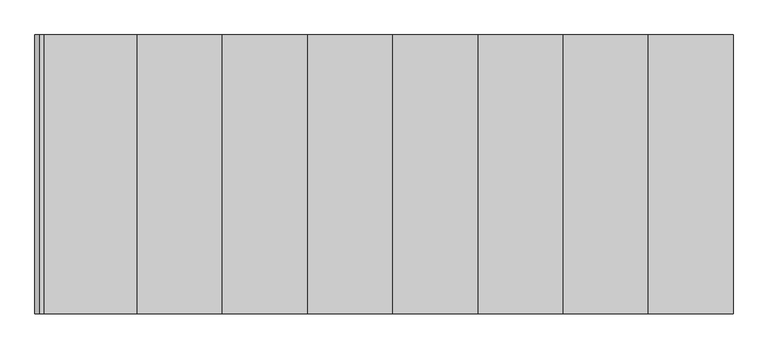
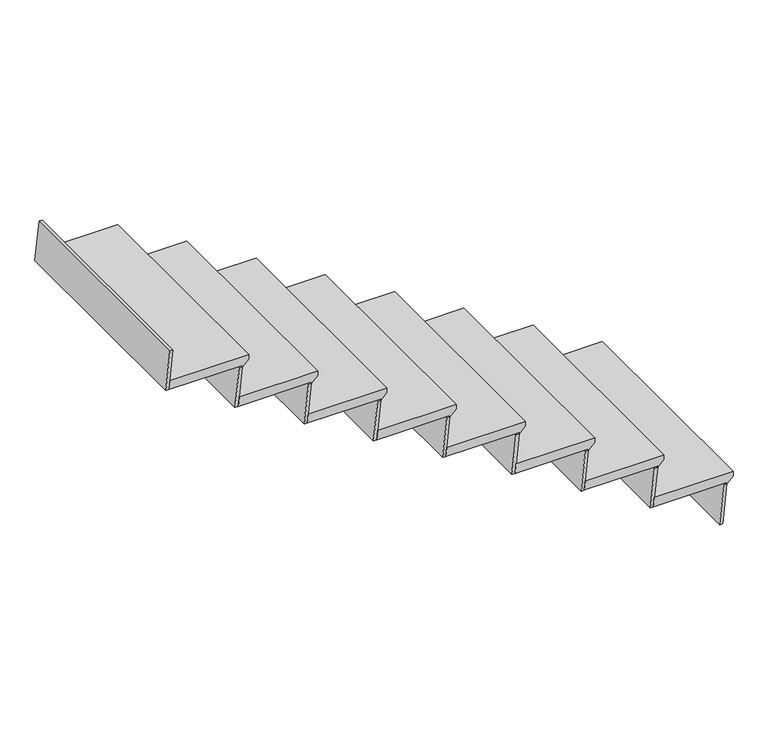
"""IFC4 building model written with IfcOpenShell, lengths in millimetres: stair flight geometry."""

from ifc_helpers import new_model, si_unit, frame, origin, place, context, project, spatial, polyline, outline, extrude, source, transform, mapped, element, save


def stair_flight_a5da1dd9(model_context):
    return source(origin(), model_context, "Body", "SweptSolid", [
        extrude(outline(polyline([(1693.3333333, -15521.4481446), (1693.3333333, -15838.9481446), (1655.2333333, -15842.8227209), (1655.2333333, -15546.8481446), (1648.8833333, -15546.8481446), (1674.2833333, -15521.4481446), (1693.3333333, -15521.4481446)])), frame((0.0, 17274.7635042, 0.0), z_axis=(0.0, 1.0, 0.0), x_axis=(0.0, 0.0, 1.0)), (0.0, 0.0, 1.0), 914.4),
        extrude(outline(polyline([(1648.8833333, -15546.8481446), (1648.8833333, -15559.6136465), (1485.9, -15576.1882228), (1485.9, -15563.4227209), (1648.8833333, -15546.8481446)])), frame((0.0, 17274.7635042, 0.0), z_axis=(0.0, 1.0, 0.0), x_axis=(0.0, 0.0, 1.0)), (0.0, 0.0, 1.0), 914.4),
        extrude(outline(polyline([(1818.2166667, -15826.2481446), (1818.2166667, -15839.0136465), (1655.2333333, -15855.5882228), (1655.2333333, -15842.8227209), (1818.2166667, -15826.2481446)])), frame((0.0, 17274.7635042, 0.0), z_axis=(0.0, 1.0, 0.0), x_axis=(0.0, 0.0, 1.0)), (0.0, 0.0, 1.0), 914.4),
        extrude(outline(polyline([(1862.6666667, -15800.8481446), (1862.6666667, -16118.3481446), (1824.5666667, -16122.2227209), (1824.5666667, -15826.2481446), (1818.2166667, -15826.2481446), (1843.6166667, -15800.8481446), (1862.6666667, -15800.8481446)])), frame((0.0, 17274.7635042, 0.0), z_axis=(0.0, 1.0, 0.0), x_axis=(0.0, 0.0, 1.0)), (0.0, 0.0, 1.0), 914.4),
        extrude(outline(polyline([(1987.55, -16105.6481446), (1987.55, -16118.4136465), (1824.5666667, -16134.9882228), (1824.5666667, -16122.2227209), (1987.55, -16105.6481446)])), frame((0.0, 17274.7635042, 0.0), z_axis=(0.0, 1.0, 0.0), x_axis=(0.0, 0.0, 1.0)), (0.0, 0.0, 1.0), 914.4),
        extrude(outline(polyline([(2032.0, -16080.2481446), (2032.0, -16397.7481446), (1993.9, -16401.6227209), (1993.9, -16105.6481446), (1987.55, -16105.6481446), (2012.95, -16080.2481446), (2032.0, -16080.2481446)])), frame((0.0, 17274.7635042, 0.0), z_axis=(0.0, 1.0, 0.0), x_axis=(0.0, 0.0, 1.0)), (0.0, 0.0, 1.0), 914.4),
        extrude(outline(polyline([(2156.8833333, -16385.0481446), (2156.8833333, -16397.8136465), (1993.9, -16414.3882228), (1993.9, -16401.6227209), (2156.8833333, -16385.0481446)])), frame((0.0, 17274.7635042, 0.0), z_axis=(0.0, 1.0, 0.0), x_axis=(0.0, 0.0, 1.0)), (0.0, 0.0, 1.0), 914.4),
        extrude(outline(polyline([(2201.3333333, -16359.6481446), (2201.3333333, -16677.1481446), (2163.2333333, -16681.0227209), (2163.2333333, -16385.0481446), (2156.8833333, -16385.0481446), (2182.2833333, -16359.6481446), (2201.3333333, -16359.6481446)])), frame((0.0, 17274.7635042, 0.0), z_axis=(0.0, 1.0, 0.0), x_axis=(0.0, 0.0, 1.0)), (0.0, 0.0, 1.0), 914.4),
        extrude(outline(polyline([(2326.2166667, -16664.4481446), (2326.2166667, -16677.2136465), (2163.2333333, -16693.7882228), (2163.2333333, -16681.0227209), (2326.2166667, -16664.4481446)])), frame((0.0, 17274.7635042, 0.0), z_axis=(0.0, 1.0, 0.0), x_axis=(0.0, 0.0, 1.0)), (0.0, 0.0, 1.0), 914.4),
        extrude(outline(polyline([(2370.6666667, -16639.0481446), (2370.6666667, -16956.5481446), (2332.5666667, -16960.4227209), (2332.5666667, -16664.4481446), (2326.2166667, -16664.4481446), (2351.6166667, -16639.0481446), (2370.6666667, -16639.0481446)])), frame((0.0, 17274.7635042, 0.0), z_axis=(0.0, 1.0, 0.0), x_axis=(0.0, 0.0, 1.0)), (0.0, 0.0, 1.0), 914.4),
        extrude(outline(polyline([(2495.55, -16943.8481446), (2495.55, -16956.6136465), (2332.5666667, -16973.1882228), (2332.5666667, -16960.4227209), (2495.55, -16943.8481446)])), frame((0.0, 17274.7635042, 0.0), z_axis=(0.0, 1.0, 0.0), x_axis=(0.0, 0.0, 1.0)), (0.0, 0.0, 1.0), 914.4),
        extrude(outline(polyline([(2540.0, -16918.4481446), (2540.0, -17235.9481446), (2501.9, -17239.8227209), (2501.9, -16943.8481446), (2495.55, -16943.8481446), (2520.95, -16918.4481446), (2540.0, -16918.4481446)])), frame((0.0, 17274.7635042, 0.0), z_axis=(0.0, 1.0, 0.0), x_axis=(0.0, 0.0, 1.0)), (0.0, 0.0, 1.0), 914.4),
        extrude(outline(polyline([(2664.8833333, -17223.2481446), (2664.8833333, -17236.0136465), (2501.9, -17252.5882228), (2501.9, -17239.8227209), (2664.8833333, -17223.2481446)])), frame((0.0, 17274.7635042, 0.0), z_axis=(0.0, 1.0, 0.0), x_axis=(0.0, 0.0, 1.0)), (0.0, 0.0, 1.0), 914.4),
        extrude(outline(polyline([(2709.3333333, -17197.8481446), (2709.3333333, -17515.3481446), (2671.2333333, -17519.2227209), (2671.2333333, -17223.2481446), (2664.8833333, -17223.2481446), (2690.2833333, -17197.8481446), (2709.3333333, -17197.8481446)])), frame((0.0, 17274.7635042, 0.0), z_axis=(0.0, 1.0, 0.0), x_axis=(0.0, 0.0, 1.0)), (0.0, 0.0, 1.0), 914.4),
        extrude(outline(polyline([(2834.2166667, -17502.6481446), (2834.2166667, -17515.4136465), (2671.2333333, -17531.9882228), (2671.2333333, -17519.2227209), (2834.2166667, -17502.6481446)])), frame((0.0, 17274.7635042, 0.0), z_axis=(0.0, 1.0, 0.0), x_axis=(0.0, 0.0, 1.0)), (0.0, 0.0, 1.0), 914.4),
        extrude(outline(polyline([(3003.55, -17782.0481446), (3003.55, -17794.8136465), (2840.5666667, -17811.3882228), (2840.5666667, -17798.6227209), (3003.55, -17782.0481446)])), frame((0.0, 17274.7635042, 0.0), z_axis=(0.0, 1.0, 0.0), x_axis=(0.0, 0.0, 1.0)), (0.0, 0.0, 1.0), 914.4),
        extrude(outline(polyline([(2878.6666667, -17477.2481446), (2878.6666667, -17794.7481446), (2840.5666667, -17798.6227209), (2840.5666667, -17502.6481446), (2834.2166667, -17502.6481446), (2859.6166667, -17477.2481446), (2878.6666667, -17477.2481446)])), frame((0.0, 17274.7635042, 0.0), z_axis=(0.0, 1.0, 0.0), x_axis=(0.0, 0.0, 1.0)), (0.0, 0.0, 1.0), 914.4),
    ])


if __name__ == "__main__":
    model = new_model("IFC4")
    model_context = context("Model", 3, world=origin())
    ifc_project = project(units=[si_unit("LENGTHUNIT", "METRE", prefix="MILLI")], contexts=[model_context])
    site = spatial("IfcSite", under=ifc_project)
    building = spatial("IfcBuilding", under=site)
    placement = place(None, origin())
    stair_flight_shape = stair_flight_a5da1dd9(model_context)
    element("IfcStairFlight", 1, ObjectType="Unassigned Steps with 1 1/2\" Tread 1 1/2\" Nosing 1/2\" Riser", at=placement, inside=building, context=model_context, shape_type="MappedRepresentation", body=[
        mapped(stair_flight_shape, transform((0.0, 0.0, 0.0), x_axis=(1.0, 0.0, 0.0), y_axis=(0.0, 1.0, 0.0), z_axis=(0.0, 0.0, 1.0))),
    ])
    save(model, "model.ifc")
